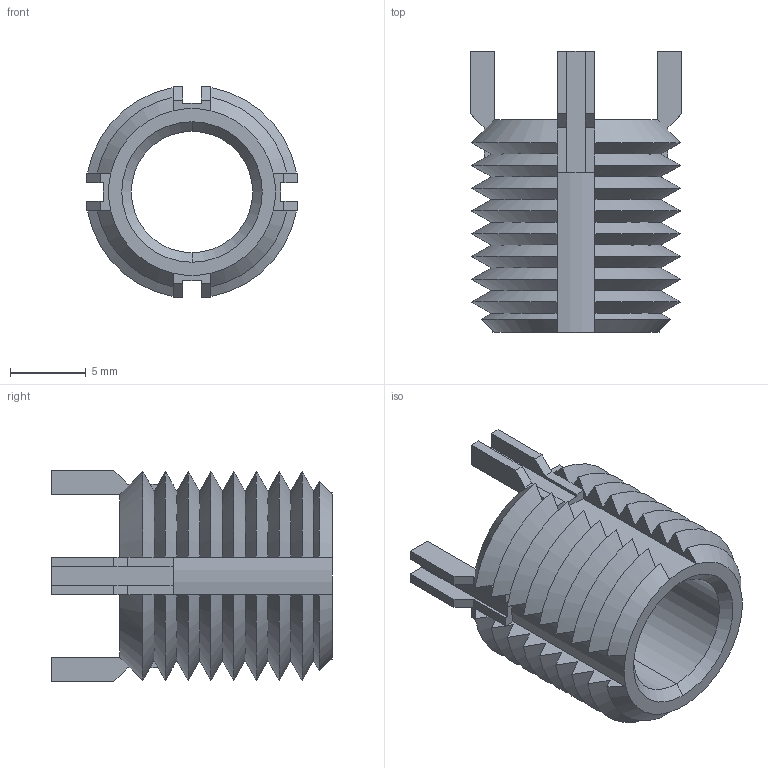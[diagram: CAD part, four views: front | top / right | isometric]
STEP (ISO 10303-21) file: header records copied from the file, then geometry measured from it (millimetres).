
FILE_DESCRIPTION (( 'STEP AP203' ), '1' );
FILE_NAME ('22002.W5660.step', '2023-03-20T19:27:42', ( '' ), ( '' ), 'SwSTEP 2.0', 'SolidWorks 2019', '' );
FILE_SCHEMA (( 'CONFIG_CONTROL_DESIGN' ));
Length unit declared in the file: millimetre
Products named in the file (1): 22002.W5660
Bounding box: 13.91 x 18.5 x 13.91 mm (x, y, z)
Volume: 993.8 mm3; surface area: 1641.8 mm2
Topology: 1 solids, 1 shells, 180 faces, 474 edges, 296 vertices
Faces by surface type: plane 98, cone 76, cylinder 6
Entity records: 5715 total; most frequent: CARTESIAN_POINT 1503, ORIENTED_EDGE 948, DIRECTION 744, EDGE_CURVE 474, VERTEX_POINT 296, AXIS2_PLACEMENT_3D 273, VECTOR 198, LINE 198
